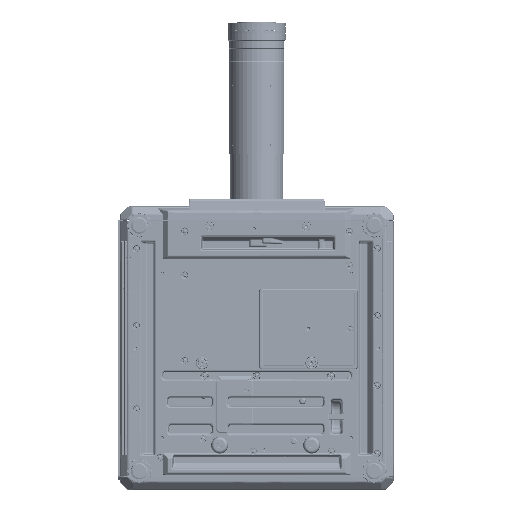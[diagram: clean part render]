
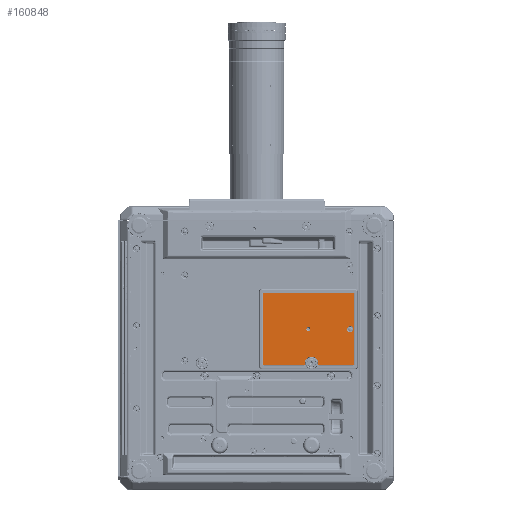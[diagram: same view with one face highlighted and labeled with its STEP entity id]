
A CAD part, front view. The second image highlights one B-rep face of the part: STEP entity #160848.
In plain terms, the highlighted planar face has unit normal (0, -1, 0).
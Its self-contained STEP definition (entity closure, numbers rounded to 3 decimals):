
#85767=ELLIPSE('',#353377,1.504,1.5);
#85768=ELLIPSE('',#353378,1.504,1.5);
#85769=ELLIPSE('',#353380,1.504,1.5);
#85770=ELLIPSE('',#353381,1.504,1.5);
#90687=PLANE('',#353382);
#125501=LINE('',#565350,#150977);
#125502=LINE('',#565355,#150978);
#125503=LINE('',#565359,#150979);
#125504=LINE('',#565403,#150980);
#125505=LINE('',#565407,#150981);
#150977=VECTOR('',#428041,1.);
#150978=VECTOR('',#428044,1.);
#150979=VECTOR('',#428047,1.);
#150980=VECTOR('',#428050,1.);
#150981=VECTOR('',#428053,1.);
#160848=ADVANCED_FACE('',(#168439,#168440,#168441),#90687,.F.);
#166064=B_SPLINE_CURVE_WITH_KNOTS('',3,(#565361,#565362,#565363,#565364,
#565365,#565366,#565367,#565368,#565369,#565370,#565371,#565372,#565373,
#565374,#565375,#565376,#565377,#565378,#565379),.UNSPECIFIED.,.F.,.F.,
(4,3,3,3,3,3,4),(0.,0.054,0.243,0.432,
0.621,0.811,1.),.UNSPECIFIED.);
#166065=B_SPLINE_CURVE_WITH_KNOTS('',3,(#565383,#565384,#565385,#565386,
#565387,#565388,#565389,#565390,#565391,#565392,#565393,#565394,#565395,
#565396,#565397,#565398,#565399,#565400,#565401),.UNSPECIFIED.,.F.,.F.,
(4,3,3,3,3,3,4),(0.,0.054,0.243,0.432,
0.621,0.811,1.),.UNSPECIFIED.);
#168439=FACE_BOUND('',#180180,.T.);
#168440=FACE_BOUND('',#180181,.T.);
#168441=FACE_BOUND('',#180182,.T.);
#180180=EDGE_LOOP('',(#235628));
#180181=EDGE_LOOP('',(#235629));
#180182=EDGE_LOOP('',(#235630,#235631,#235632,#235633,#235634,#235635,#235636,
#235637,#235638,#235639,#235640,#235641));
#235628=ORIENTED_EDGE('',*,*,#319352,.T.);
#235629=ORIENTED_EDGE('',*,*,#319353,.T.);
#235630=ORIENTED_EDGE('',*,*,#319354,.T.);
#235631=ORIENTED_EDGE('',*,*,#319355,.T.);
#235632=ORIENTED_EDGE('',*,*,#319356,.T.);
#235633=ORIENTED_EDGE('',*,*,#319357,.T.);
#235634=ORIENTED_EDGE('',*,*,#319358,.T.);
#235635=ORIENTED_EDGE('',*,*,#319359,.T.);
#235636=ORIENTED_EDGE('',*,*,#319360,.T.);
#235637=ORIENTED_EDGE('',*,*,#319361,.T.);
#235638=ORIENTED_EDGE('',*,*,#319362,.T.);
#235639=ORIENTED_EDGE('',*,*,#319363,.T.);
#235640=ORIENTED_EDGE('',*,*,#319364,.T.);
#235641=ORIENTED_EDGE('',*,*,#319365,.T.);
#273622=VERTEX_POINT('',#565346);
#273623=VERTEX_POINT('',#565349);
#273624=VERTEX_POINT('',#565351);
#273625=VERTEX_POINT('',#565352);
#273626=VERTEX_POINT('',#565354);
#273627=VERTEX_POINT('',#565356);
#273628=VERTEX_POINT('',#565358);
#273629=VERTEX_POINT('',#565360);
#273630=VERTEX_POINT('',#565380);
#273631=VERTEX_POINT('',#565382);
#273632=VERTEX_POINT('',#565402);
#273633=VERTEX_POINT('',#565404);
#273634=VERTEX_POINT('',#565406);
#273635=VERTEX_POINT('',#565408);
#319352=EDGE_CURVE('',#273622,#273622,#328766,.T.);
#319353=EDGE_CURVE('',#273623,#273623,#328767,.T.);
#319354=EDGE_CURVE('',#273624,#273625,#125501,.T.);
#319355=EDGE_CURVE('',#273625,#273626,#85767,.T.);
#319356=EDGE_CURVE('',#273626,#273627,#125502,.T.);
#319357=EDGE_CURVE('',#273627,#273628,#85768,.T.);
#319358=EDGE_CURVE('',#273628,#273629,#125503,.T.);
#319359=EDGE_CURVE('',#273629,#273630,#166064,.T.);
#319360=EDGE_CURVE('',#273630,#273631,#328768,.T.);
#319361=EDGE_CURVE('',#273631,#273632,#166065,.T.);
#319362=EDGE_CURVE('',#273632,#273633,#125504,.T.);
#319363=EDGE_CURVE('',#273633,#273634,#85769,.T.);
#319364=EDGE_CURVE('',#273634,#273635,#125505,.T.);
#319365=EDGE_CURVE('',#273635,#273624,#85770,.T.);
#328766=CIRCLE('',#353374,4.);
#328767=CIRCLE('',#353376,6.125);
#328768=CIRCLE('',#353379,13.358);
#353374=AXIS2_PLACEMENT_3D('',#565345,#428035,#428036);
#353376=AXIS2_PLACEMENT_3D('',#565348,#428039,#428040);
#353377=AXIS2_PLACEMENT_3D('',#565353,#428042,#428043);
#353378=AXIS2_PLACEMENT_3D('',#565357,#428045,#428046);
#353379=AXIS2_PLACEMENT_3D('',#565381,#428048,#428049);
#353380=AXIS2_PLACEMENT_3D('',#565405,#428051,#428052);
#353381=AXIS2_PLACEMENT_3D('',#565409,#428054,#428055);
#353382=AXIS2_PLACEMENT_3D('',#565410,#428056,#428057);
#428035=DIRECTION('',(0.,1.,0.));
#428036=DIRECTION('',(0.,0.,1.));
#428039=DIRECTION('',(0.,1.,0.));
#428040=DIRECTION('',(0.,0.,1.));
#428041=DIRECTION('',(-1.,0.,0.));
#428042=DIRECTION('',(0.,-1.,0.));
#428043=DIRECTION('',(0.707,0.,-0.707));
#428044=DIRECTION('',(0.,0.,-1.));
#428045=DIRECTION('',(0.,-1.,0.));
#428046=DIRECTION('',(-0.707,0.,-0.707));
#428047=DIRECTION('',(1.,0.,0.));
#428048=DIRECTION('',(0.,1.,0.));
#428049=DIRECTION('',(0.,0.,1.));
#428050=DIRECTION('',(1.,0.,0.));
#428051=DIRECTION('',(0.,-1.,0.));
#428052=DIRECTION('',(-0.707,0.,0.707));
#428053=DIRECTION('',(0.,0.,1.));
#428054=DIRECTION('',(0.,-1.,0.));
#428055=DIRECTION('',(-0.707,0.,-0.707));
#428056=DIRECTION('',(0.,1.,0.));
#428057=DIRECTION('',(0.,0.,1.));
#565345=CARTESIAN_POINT('',(103.8,-116.5,-1.5));
#565346=CARTESIAN_POINT('',(103.8,-116.5,2.5));
#565348=CARTESIAN_POINT('',(187.8,-116.5,-1.5));
#565349=CARTESIAN_POINT('',(187.8,-116.5,4.625));
#565350=CARTESIAN_POINT('',(110.,-116.5,71.642));
#565351=CARTESIAN_POINT('',(193.644,-116.5,71.642));
#565352=CARTESIAN_POINT('',(14.356,-116.5,71.642));
#565353=CARTESIAN_POINT('',(14.36,-116.5,70.14));
#565354=CARTESIAN_POINT('',(12.858,-116.5,70.144));
#565355=CARTESIAN_POINT('',(12.858,-116.5,-70.));
#565356=CARTESIAN_POINT('',(12.858,-116.5,-73.144));
#565357=CARTESIAN_POINT('',(14.36,-116.5,-73.14));
#565358=CARTESIAN_POINT('',(14.356,-116.5,-74.642));
#565359=CARTESIAN_POINT('',(110.,-116.5,-74.642));
#565360=CARTESIAN_POINT('',(95.481,-116.5,-74.642));
#565361=CARTESIAN_POINT('',(95.481,-116.5,-74.642));
#565362=CARTESIAN_POINT('',(95.529,-116.5,-74.642));
#565363=CARTESIAN_POINT('',(95.578,-116.5,-74.64));
#565364=CARTESIAN_POINT('',(95.627,-116.5,-74.635));
#565365=CARTESIAN_POINT('',(95.794,-116.5,-74.619));
#565366=CARTESIAN_POINT('',(95.96,-116.5,-74.574));
#565367=CARTESIAN_POINT('',(96.112,-116.5,-74.503));
#565368=CARTESIAN_POINT('',(96.264,-116.5,-74.433));
#565369=CARTESIAN_POINT('',(96.405,-116.5,-74.335));
#565370=CARTESIAN_POINT('',(96.525,-116.5,-74.219));
#565371=CARTESIAN_POINT('',(96.645,-116.5,-74.102));
#565372=CARTESIAN_POINT('',(96.747,-116.5,-73.963));
#565373=CARTESIAN_POINT('',(96.822,-116.5,-73.813));
#565374=CARTESIAN_POINT('',(96.897,-116.5,-73.662));
#565375=CARTESIAN_POINT('',(96.947,-116.5,-73.497));
#565376=CARTESIAN_POINT('',(96.967,-116.5,-73.33));
#565377=CARTESIAN_POINT('',(96.988,-116.5,-73.164));
#565378=CARTESIAN_POINT('',(96.98,-116.5,-72.991));
#565379=CARTESIAN_POINT('',(96.945,-116.5,-72.827));
#565380=CARTESIAN_POINT('',(96.945,-116.5,-72.827));
#565381=CARTESIAN_POINT('',(110.,-116.5,-70.));
#565382=CARTESIAN_POINT('',(123.055,-116.5,-72.827));
#565383=CARTESIAN_POINT('',(123.055,-116.5,-72.827));
#565384=CARTESIAN_POINT('',(123.045,-116.5,-72.875));
#565385=CARTESIAN_POINT('',(123.037,-116.5,-72.923));
#565386=CARTESIAN_POINT('',(123.031,-116.5,-72.972));
#565387=CARTESIAN_POINT('',(123.012,-116.5,-73.138));
#565388=CARTESIAN_POINT('',(123.021,-116.5,-73.31));
#565389=CARTESIAN_POINT('',(123.058,-116.5,-73.473));
#565390=CARTESIAN_POINT('',(123.094,-116.5,-73.637));
#565391=CARTESIAN_POINT('',(123.159,-116.5,-73.796));
#565392=CARTESIAN_POINT('',(123.248,-116.5,-73.938));
#565393=CARTESIAN_POINT('',(123.337,-116.5,-74.08));
#565394=CARTESIAN_POINT('',(123.451,-116.5,-74.209));
#565395=CARTESIAN_POINT('',(123.582,-116.5,-74.313));
#565396=CARTESIAN_POINT('',(123.713,-116.5,-74.418));
#565397=CARTESIAN_POINT('',(123.864,-116.5,-74.502));
#565398=CARTESIAN_POINT('',(124.023,-116.5,-74.558));
#565399=CARTESIAN_POINT('',(124.181,-116.5,-74.613));
#565400=CARTESIAN_POINT('',(124.351,-116.5,-74.642));
#565401=CARTESIAN_POINT('',(124.519,-116.5,-74.642));
#565402=CARTESIAN_POINT('',(124.519,-116.5,-74.642));
#565403=CARTESIAN_POINT('',(110.,-116.5,-74.642));
#565404=CARTESIAN_POINT('',(193.644,-116.5,-74.642));
#565405=CARTESIAN_POINT('',(193.64,-116.5,-73.14));
#565406=CARTESIAN_POINT('',(195.142,-116.5,-73.144));
#565407=CARTESIAN_POINT('',(195.142,-116.5,-70.));
#565408=CARTESIAN_POINT('',(195.142,-116.5,70.144));
#565409=CARTESIAN_POINT('',(193.64,-116.5,70.14));
#565410=CARTESIAN_POINT('',(110.,-116.5,-70.));
